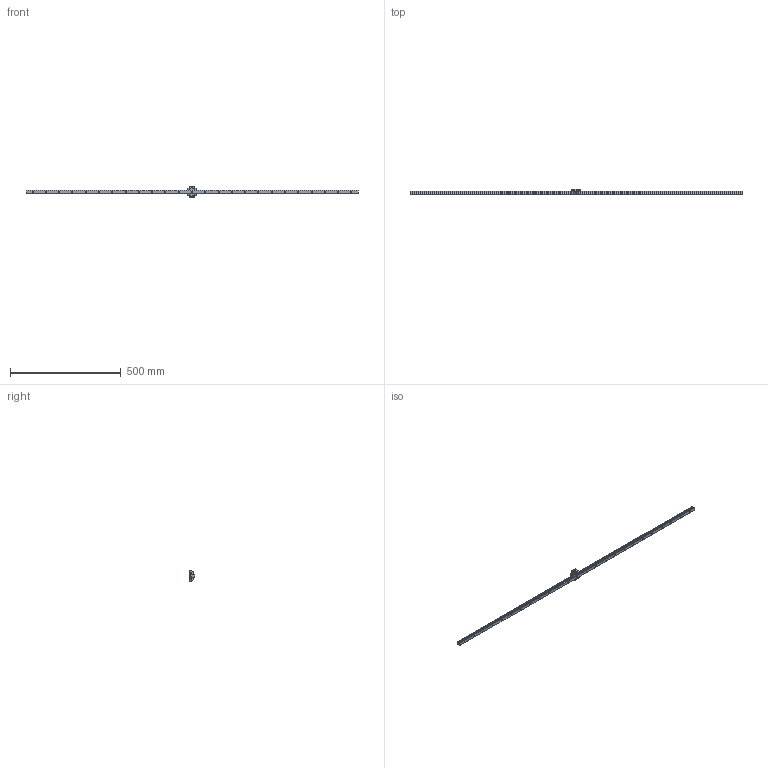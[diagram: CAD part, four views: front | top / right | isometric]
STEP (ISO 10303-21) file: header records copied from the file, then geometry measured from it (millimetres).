
FILE_DESCRIPTION( ( 'STEP AP214' ), '1' );
FILE_NAME( 'p:/temp/worker_121/temp/exporttempdir_3136_37_N7AbF/format_1/1xBM S 15-N-G3-KC-R1-1500-30-30-CN 1xBM W 15-J-G3-V0-R1-CN-S99-LN-( -1).stp', '2020-06-09T09:26:19', ( 'License CC BY-ND 4.0' ), ( 'CADENAS' ), ' ', 'PARTsolutions', ' ' );
FILE_SCHEMA( ( 'AUTOMOTIVE_DESIGN { 1 0 10303 214 1 1 1 1 }' ) );
Length unit declared in the file: millimetre
Products named in the file (4): 1xBM S 15-N-G3-KC-R1-1500-30-30-CN 1xBM W 15-J-G3-V0-R1-CN-S99-LN-( -1); _1xBM S 15-N-G3-KC-R1-1500-30-30-CN-(1); _1 BM W 15-J-G3-V0-R1-CN-S10-LN; _STB 15-J(0)
Assembly tree (4 placements, depth 2):
  1xBM S 15-N-G3-KC-R1-1500-30-30-CN 1xBM W 15-J-G3-V0-R1-CN-S99-LN-( -1)
    _1xBM S 15-N-G3-KC-R1-1500-30-30-CN-(1)
    _1 BM W 15-J-G3-V0-R1-CN-S10-LN
    _STB 15-J(0)  x2
Bounding box: 1500 x 24 x 52 mm (x, y, z)
Volume: 293310.8 mm3; surface area: 109641.3 mm2
Topology: 4 solids, 4 shells, 419 faces, 1060 edges, 697 vertices
Faces by surface type: plane 229, cylinder 168, cone 18, torus 4
Full cylindrical faces by diameter (mm): 2.013 x4, 2.459 x4, 2.46 x2, 3.1 x4, 4.134 x2, 4.5 x29, 5 x4, 7.5 x2, 8 x27
Entity records: 11393 total; most frequent: DIRECTION 1577, CARTESIAN_POINT 1490, ORIENTED_EDGE 1352, EDGE_CURVE 676, AXIS2_PLACEMENT_3D 588, VERTEX_POINT 501, EDGE_LOOP 483, LINE 401
